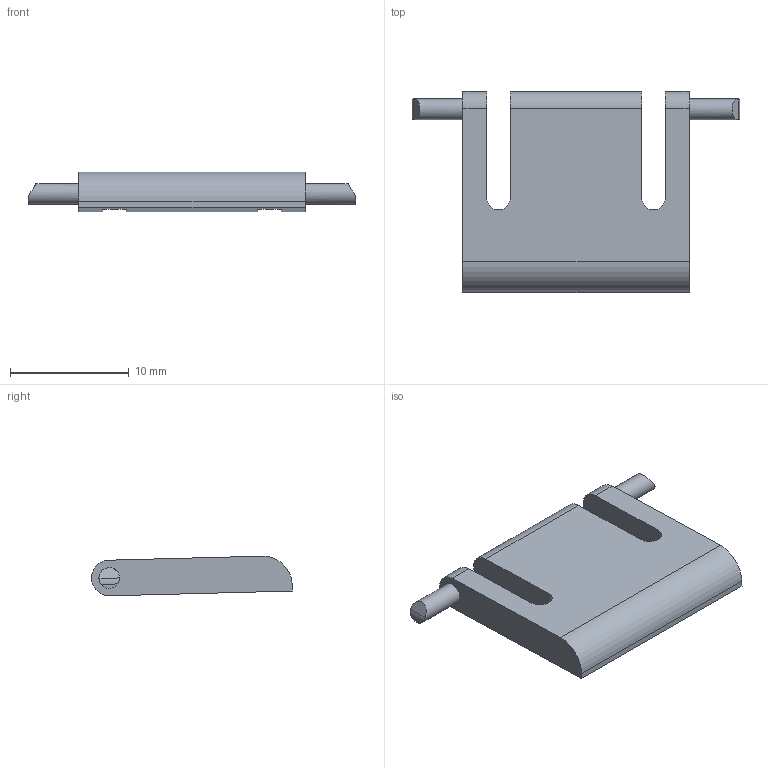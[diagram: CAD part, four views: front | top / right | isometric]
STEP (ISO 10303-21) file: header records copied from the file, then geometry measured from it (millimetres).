
FILE_DESCRIPTION(('STEP AP242 Edition 2','STEP AP242 Edition 2''CAx-IF Rec.Pracs.---Representation and Presentation of Product Manufacturing Information (PMI)---4.0---2014-10-13','STEP AP242 Edition 2''CAx-IF Rec.Pracs.---Representation and Presentation of Product Manufacturing Information (PMI)---4.0---2014-10-13''CAx-IF Rec.Pracs.---3D Tessellated Geometry---0.4---2014-09-14','STEP AP242 Edition 2''CAx-IF Rec.Pracs.---Representation and Presentation of Product Manufacturing Information (PMI)---4.0---2014-10-13''CAx-IF Rec.Pracs.---3D Tessellated Geometry---0.4---2014-09-14''2;1','STEP AP242 Edition 2''CAx-IF Rec.Pracs.---Representation and Presentation of Product Manufacturing Information (PMI)---4.0---2014-10-13''CAx-IF Rec.Pracs.---3D Tessellated Geometry---0.4---2014-09-14''2;1''CAx-IF Rec.Pracs.---User Defined Attributes---1.5---2016-08-15'),'2;1');
FILE_NAME('/vol/tmp/translate-job-12365391357250807974/translate-2322077590236900284/Enclosure - Extender 1.step','2026-11-02T17:49:57',(''),(''),'ST-DEVELOPER v20','ONSHAPE BY PTC INC, 1.223',' ');
FILE_SCHEMA(('AP242_MANAGED_MODEL_BASED_3D_ENGINEERING_MIM_LF { 1 0 10303 442 3 1 4 }'));
Length unit declared in the file: inch
Products named in the file (1): Extender 1
Bounding box: 27.57 x 16.92 x 3.34 mm (x, y, z)
Volume: 827 mm3; surface area: 891.8 mm2
Topology: 1 solids, 1 shells, 23 faces, 57 edges, 38 vertices
Faces by surface type: plane 13, cylinder 10
Full cylindrical faces by diameter (mm): 1.75 x2
Entity records: 842 total; most frequent: CARTESIAN_POINT 134, DIRECTION 133, ORIENTED_EDGE 106, EDGE_CURVE 53, AXIS2_PLACEMENT_3D 51, VERTEX_POINT 36, LINE 31, VECTOR 31
